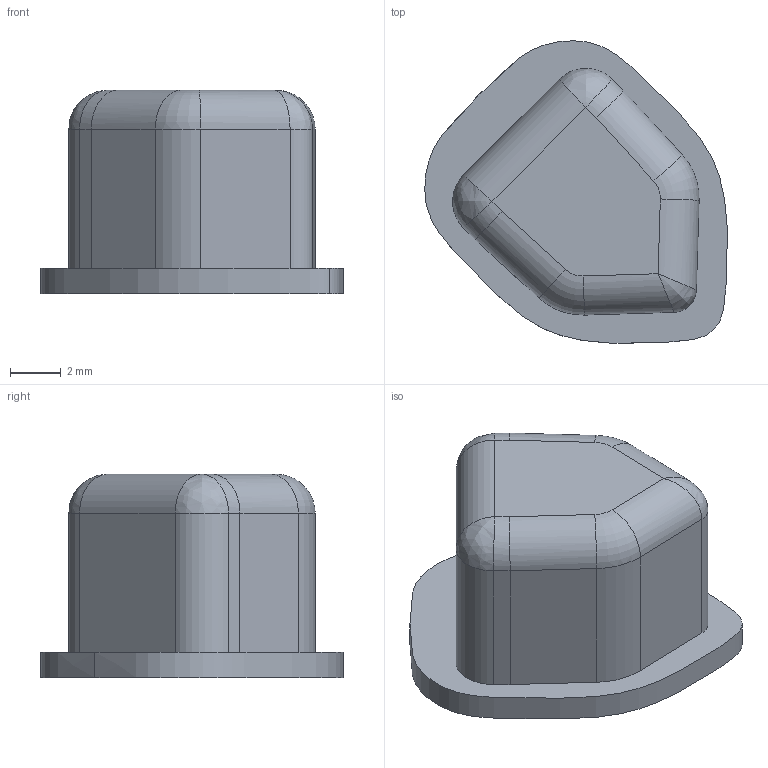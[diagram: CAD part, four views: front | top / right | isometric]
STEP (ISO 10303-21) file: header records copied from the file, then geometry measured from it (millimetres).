
FILE_DESCRIPTION(/* description */ ('STEP AP242','CAx-IF Rec.Pracs.---Representation and Presentation of Product Manufacturing Information (PMI)---4.0---2014-10-13','CAx-IF Rec.Pracs.---3D Tessellated Geometry---0.4---2014-09-14','2;1'),/* implementation_level */ '2;1');
FILE_NAME(/* name */ '686616fc8d54b807f87f5840',/* time_stamp */ '2025-07-03T05:37:01Z',/* author */ (''),/* organization */ (''),/* preprocessor_version */ 'ST-DEVELOPER v20',/* originating_system */ 'ONSHAPE BY PTC INC, 1.200',/* authorisation */ ' ');
FILE_SCHEMA (('AP242_MANAGED_MODEL_BASED_3D_ENGINEERING_MIM_LF { 1 0 10303 442 1 1 4 }'));
Length unit declared in the file: metre
Products named in the file (1): Part 1
Bounding box: 11.89 x 11.89 x 8 mm (x, y, z)
Volume: 514.2 mm3; surface area: 484.5 mm2
Topology: 1 solids, 1 shells, 34 faces, 78 edges, 45 vertices
Faces by surface type: plane 15, cylinder 12, bspline 5, torus 2
Entity records: 1077 total; most frequent: CARTESIAN_POINT 313, DIRECTION 155, ORIENTED_EDGE 150, EDGE_CURVE 75, AXIS2_PLACEMENT_3D 54, LINE 47, VECTOR 47, VERTEX_POINT 45
